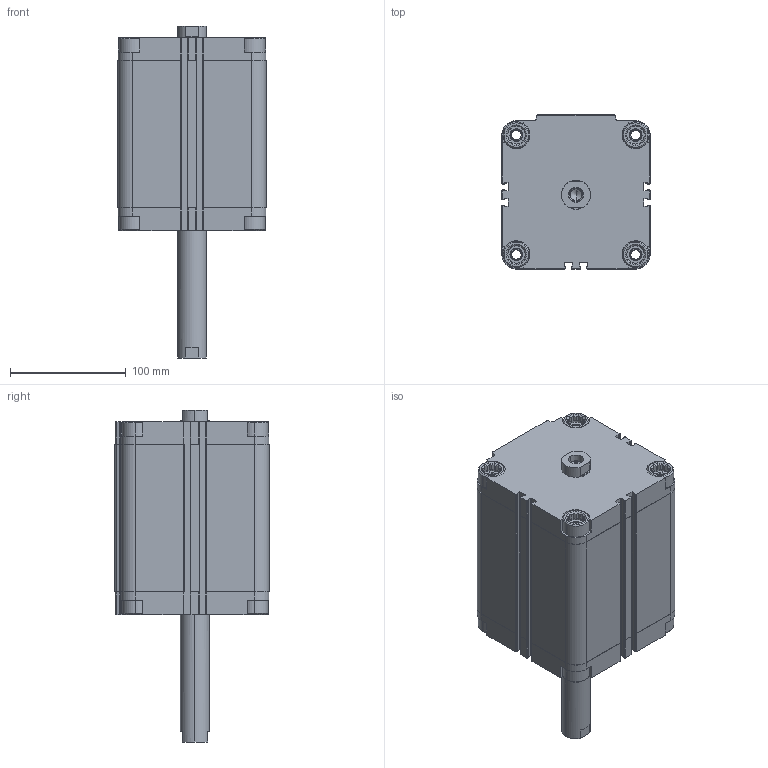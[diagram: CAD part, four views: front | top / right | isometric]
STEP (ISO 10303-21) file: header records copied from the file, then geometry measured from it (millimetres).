
FILE_DESCRIPTION (( 'STEP AP203' ), '1' );
FILE_NAME ('CDVU100-100F-P.STEP', '2020-07-24T18:43:01', ( '' ), ( '' ), 'SwSTEP 2.0', 'SolidWorks 2019', '' );
FILE_SCHEMA (( 'CONFIG_CONTROL_DESIGN' ));
Length unit declared in the file: millimetre
Products named in the file (1): CDVU100-100F-P
Bounding box: 128 x 133 x 286.5 mm (x, y, z)
Volume: 1931163 mm3; surface area: 260580.9 mm2
Topology: 2 solids, 2 shells, 670 faces, 1812 edges, 1188 vertices
Faces by surface type: plane 394, cylinder 212, cone 64
Entity records: 21267 total; most frequent: CARTESIAN_POINT 4239, ORIENTED_EDGE 3608, DIRECTION 3458, EDGE_CURVE 1804, VERTEX_POINT 1188, AXIS2_PLACEMENT_3D 1175, VECTOR 1108, LINE 1108
